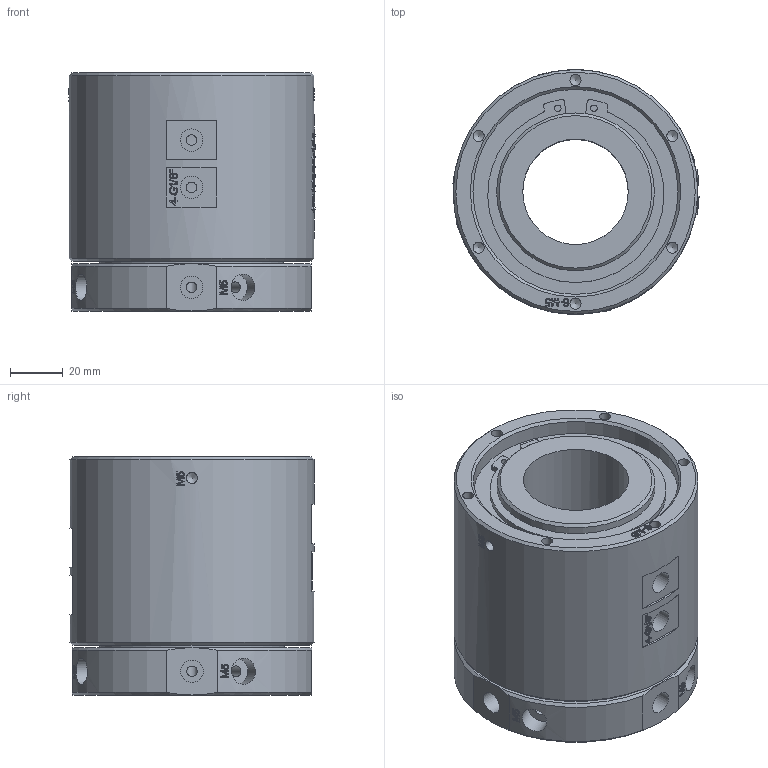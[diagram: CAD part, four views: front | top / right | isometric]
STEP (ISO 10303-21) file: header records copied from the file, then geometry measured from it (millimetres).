
FILE_DESCRIPTION(/* description */ (''),/* implementation_level */ '2;1');
FILE_NAME(/* name */ 'HQ0401-D40-3D模型.stp',/* time_stamp */ '2025-08-06T09:55:20+08:00',/* author */ (''),/* organization */ (''),/* preprocessor_version */ 'ST-DEVELOPER v16.7',/* originating_system */ 'SIEMENS PLM Software NX 12.0',/* authorisation */ '');
FILE_SCHEMA (('AUTOMOTIVE_DESIGN { 1 0 10303 214 3 1 1 1 }'));
Products named in the file (1): Admi3F746D2Ejqkp
Bounding box: 93.58 x 93 x 90.9 mm (x, y, z)
Volume: 471802.8 mm3; surface area: 65384.4 mm2
Topology: 1 solids, 1 shells, 1302 faces, 3532 edges, 2355 vertices
Faces by surface type: extrusion 612, plane 517, cylinder 87, bspline 62, cone 24
Full cylindrical faces by diameter (mm): 2.5 x2, 4 x12, 4.1 x4, 4.2 x16, 6.8 x4, 8.5 x8, 10 x4, 40.1 x1, 57 x1, 60 x1, 70 x1, 78 x1, 93 x1
Entity records: 50082 total; most frequent: CARTESIAN_POINT 22537, ORIENTED_EDGE 6830, EDGE_CURVE 3415, B_SPLINE_CURVE_WITH_KNOTS 3135, DIRECTION 3128, VERTEX_POINT 2326, EDGE_LOOP 1511, ADVANCED_FACE 1302
